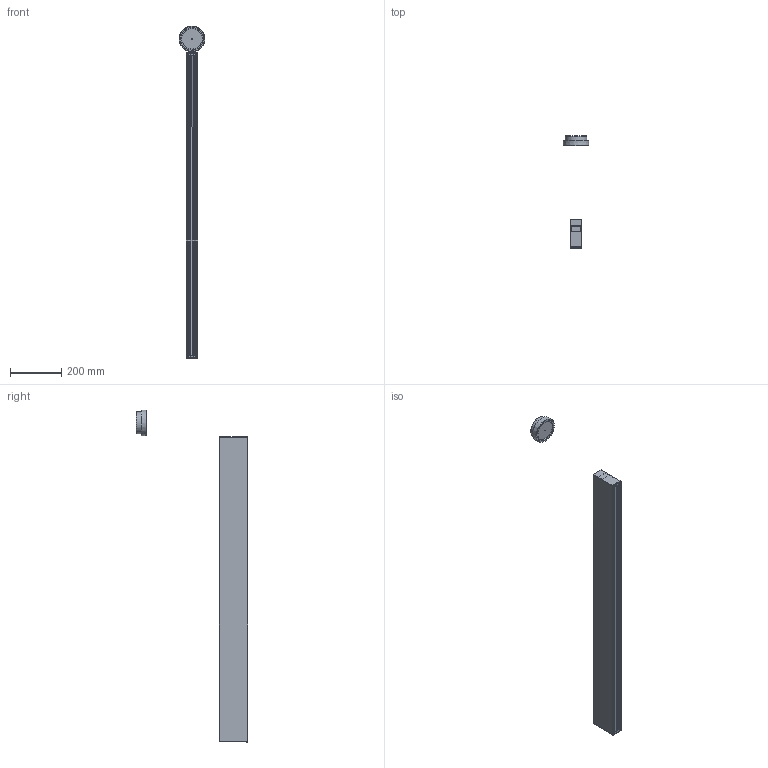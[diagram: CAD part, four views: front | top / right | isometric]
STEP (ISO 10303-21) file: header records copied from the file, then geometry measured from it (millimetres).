
FILE_DESCRIPTION(/* description */ (''),/* implementation_level */ '2;1');
FILE_NAME(/* name */ 'D:\_SHARED\_PROGETTI IN CORSO\Artemide\3D Semplificati\Algoritmo\ASM Semplificati\EXPORT MODELLI SEMPLIFICATI\21.ipt.stp',/* time_stamp */ '2018-02-23T06:07:50-08:00',/* author */ ('NEGRI'),/* organization */ (''),/* preprocessor_version */ 'ST-DEVELOPER v16.13',/* originating_system */ 'Autodesk Inventor 2018',/* authorisation */ '');
FILE_SCHEMA (('AUTOMOTIVE_DESIGN { 1 0 10303 214 3 1 1 }'));
Length unit declared in the file: metre
Products named in the file (1): 21.x_t
Bounding box: 100.35 x 435.9 x 1293.85 mm (x, y, z)
Volume: 1915641.9 mm3; surface area: 1045852.1 mm2
Topology: 12 solids, 12 shells, 191 faces, 461 edges, 298 vertices
Faces by surface type: plane 103, cylinder 64, torus 13, cone 7, bspline 4
Full cylindrical faces by diameter (mm): 2 x1, 80 x1, 82.6 x1, 85 x1
Entity records: 5798 total; most frequent: CARTESIAN_POINT 1237, DIRECTION 949, ORIENTED_EDGE 890, EDGE_CURVE 445, AXIS2_PLACEMENT_3D 326, LINE 297, VECTOR 297, VERTEX_POINT 294
